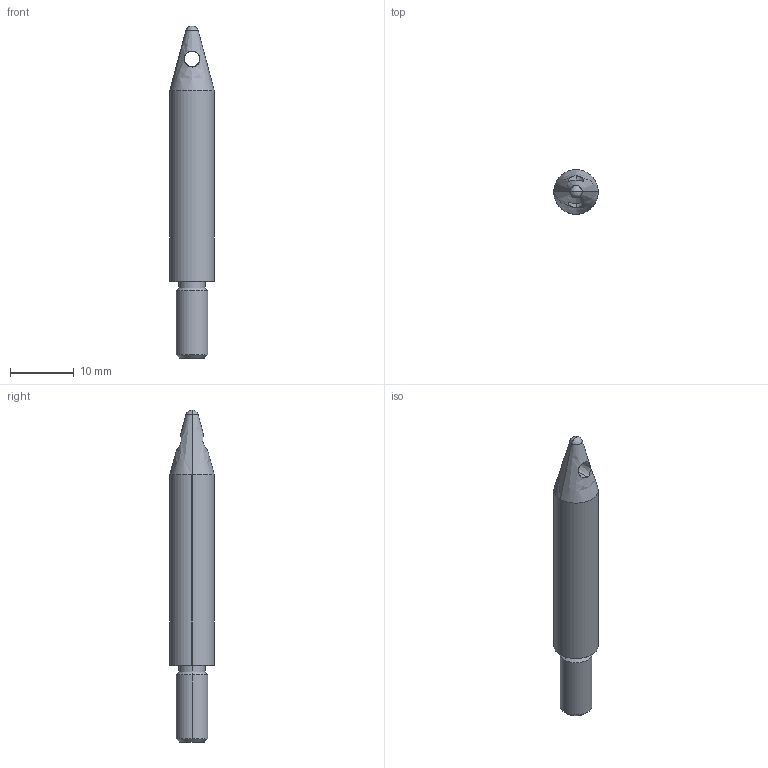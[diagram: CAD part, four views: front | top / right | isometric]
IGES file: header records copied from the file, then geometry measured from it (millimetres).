
Global section: file name: E:\UnigraphicsGraphicData\MISUMI_PRESS-PARTS\IGES\3d_sltlh8-p7.00-b30_02950_r00.igs; native system: NX V5.0; preprocessor: UGS NX IGES V5.0; author: MISUMI; date: 20110105.162835; units: millimetre
Bounding box: 7 x 7 x 52.2 mm (x, y, z)
Surface area: 1048.4 mm2 (no closed solid volume)
Topology: 0 solids, 0 shells, 20 faces, 124 edges, 122 vertices
Faces by surface type: bspline 20
